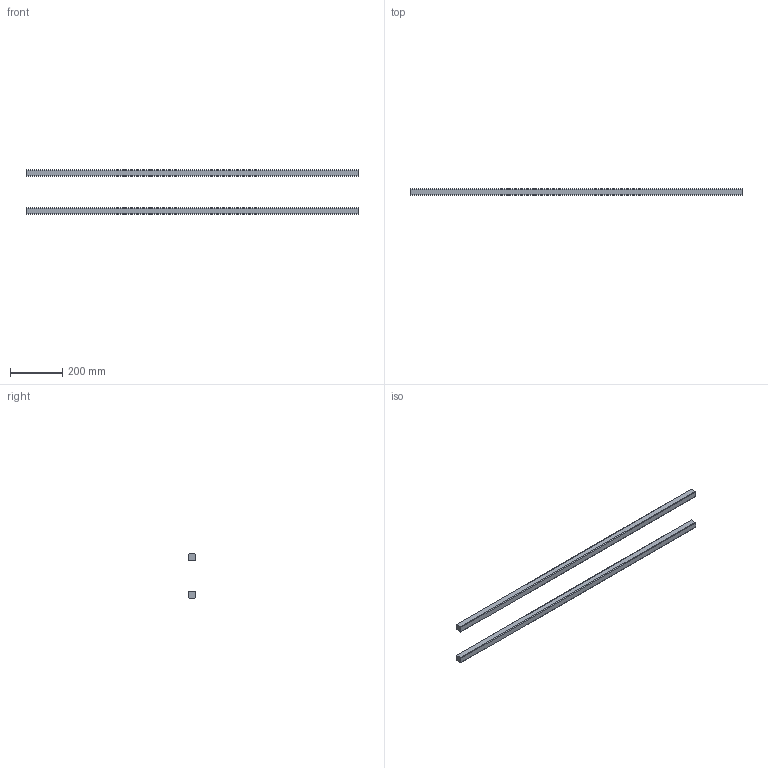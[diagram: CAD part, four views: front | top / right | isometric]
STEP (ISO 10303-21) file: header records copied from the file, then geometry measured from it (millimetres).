
FILE_DESCRIPTION (( 'STEP AP214' ), '1' );
FILE_NAME ('705417.STEP', '2025-10-01T09:48:57', ( '' ), ( '' ), 'SwSTEP 2.0', 'SolidWorks 2025', '' );
FILE_SCHEMA (( 'AUTOMOTIVE_DESIGN' ));
Length unit declared in the file: millimetre
Products named in the file (1): 705417
Bounding box: 1275 x 25 x 170 mm (x, y, z)
Volume: 1580069.1 mm3; surface area: 246533.8 mm2
Topology: 2 solids, 2 shells, 20 faces, 48 edges, 32 vertices
Faces by surface type: plane 12, cylinder 8
Entity records: 620 total; most frequent: DIRECTION 106, CARTESIAN_POINT 101, ORIENTED_EDGE 96, EDGE_CURVE 48, AXIS2_PLACEMENT_3D 37, VERTEX_POINT 32, LINE 32, VECTOR 32
